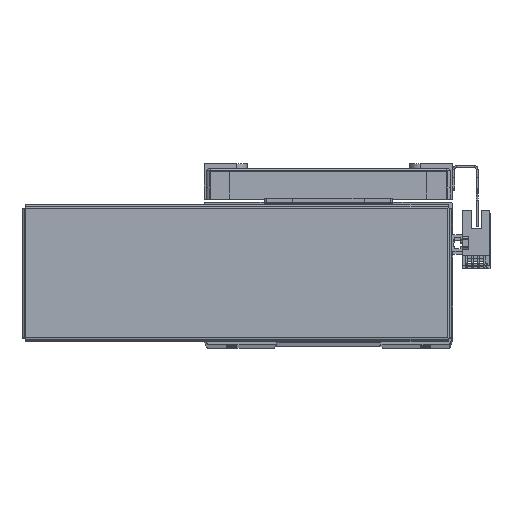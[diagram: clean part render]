
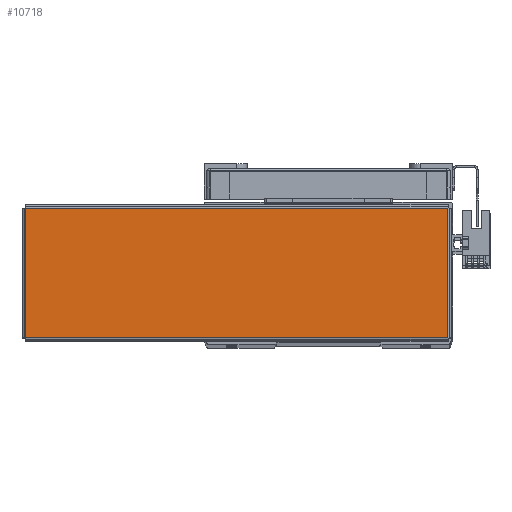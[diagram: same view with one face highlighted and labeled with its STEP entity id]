
A CAD part, top view. The second image highlights one B-rep face of the part: STEP entity #10718.
In plain terms, the highlighted planar face has unit normal (0, 0, 1) as drawn and (0, -1, 0) by its records, which use the part's own axes.
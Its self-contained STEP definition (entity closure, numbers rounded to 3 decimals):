
#4493 = EDGE_CURVE ( 'NONE', #31424, #31882, #42705, .T. ) ;
#4517 = EDGE_CURVE ( 'NONE', #31882, #31479, #42753, .T. ) ;
#4526 = EDGE_CURVE ( 'NONE', #31479, #31499, #42807, .T. ) ;
#4558 = EDGE_CURVE ( 'NONE', #31499, #31424, #42767, .T. ) ;
#4893 = PLANE ( 'NONE',  #43446 ) ;
#5051 = CARTESIAN_POINT ( 'NONE',  ( 0., -1., 0. ) ) ;
#5101 = DIRECTION ( 'NONE',  ( 0., 1., 0. ) ) ;
#5147 = DIRECTION ( 'NONE',  ( 0., 0., 1. ) ) ;
#7030 = FACE_OUTER_BOUND ( 'NONE', #37707, .T. ) ;
#10718 = ADVANCED_FACE ( 'NONE', ( #7030 ), #4893, .F. ) ;
#31043 = ORIENTED_EDGE ( 'NONE', *, *, #4526, .T. ) ;
#31048 = ORIENTED_EDGE ( 'NONE', *, *, #4493, .T. ) ;
#31059 = ORIENTED_EDGE ( 'NONE', *, *, #4517, .T. ) ;
#31081 = ORIENTED_EDGE ( 'NONE', *, *, #4558, .T. ) ;
#31424 = VERTEX_POINT ( 'NONE', #33241 ) ;
#31479 = VERTEX_POINT ( 'NONE', #33336 ) ;
#31499 = VERTEX_POINT ( 'NONE', #33243 ) ;
#31882 = VERTEX_POINT ( 'NONE', #33446 ) ;
#33241 = CARTESIAN_POINT ( 'NONE',  ( 103.763, -1., -31.763 ) ) ;
#33243 = CARTESIAN_POINT ( 'NONE',  ( -103.763, -1., -31.763 ) ) ;
#33336 = CARTESIAN_POINT ( 'NONE',  ( -103.763, -1., 31.763 ) ) ;
#33446 = CARTESIAN_POINT ( 'NONE',  ( 103.763, -1., 31.763 ) ) ;
#36943 = CARTESIAN_POINT ( 'NONE',  ( 103.763, -1., -31.793 ) ) ;
#36947 = DIRECTION ( 'NONE',  ( 0., 0., 1. ) ) ;
#37562 = CARTESIAN_POINT ( 'NONE',  ( 103.793, -1., 31.763 ) ) ;
#37590 = CARTESIAN_POINT ( 'NONE',  ( -103.763, -1., 31.793 ) ) ;
#37605 = DIRECTION ( 'NONE',  ( 0., 0., -1. ) ) ;
#37611 = DIRECTION ( 'NONE',  ( -1., 0., 0. ) ) ;
#37707 = EDGE_LOOP ( 'NONE', ( #31059, #31043, #31081, #31048 ) ) ;
#42705 = LINE ( 'NONE', #36943, #42720 ) ;
#42720 = VECTOR ( 'NONE', #36947, 1000. ) ;
#42753 = LINE ( 'NONE', #37562, #42759 ) ;
#42759 = VECTOR ( 'NONE', #37611, 1000. ) ;
#42767 = LINE ( 'NONE', #54185, #42769 ) ;
#42769 = VECTOR ( 'NONE', #54181, 1000. ) ;
#42770 = VECTOR ( 'NONE', #37605, 1000. ) ;
#42807 = LINE ( 'NONE', #37590, #42770 ) ;
#43446 = AXIS2_PLACEMENT_3D ( 'NONE', #5051, #5101, #5147 ) ;
#54181 = DIRECTION ( 'NONE',  ( 1., 0., 0. ) ) ;
#54185 = CARTESIAN_POINT ( 'NONE',  ( -103.793, -1., -31.763 ) ) ;
